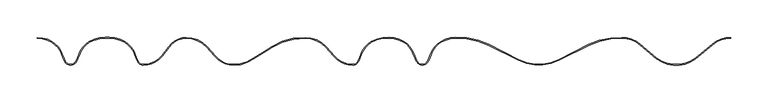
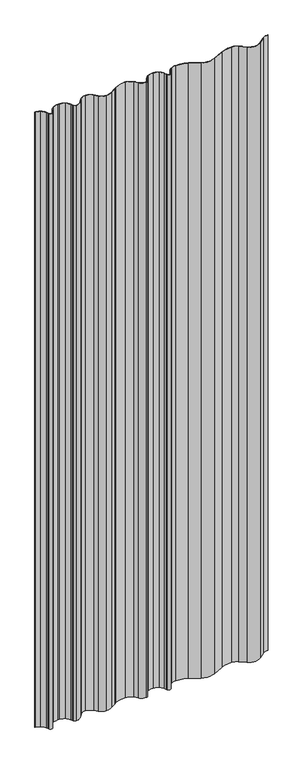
"""IFC4 building model written with IfcOpenShell, lengths in millimetres: plate geometry, Ritmica Couverture 928  : Ritmica Couverture 928 ."""

from ifc_helpers import new_model, si_unit, frame, origin, place, context, project, spatial, polyline, circle_curve, source, transform, mapped, element, save
from ifc_brep_helpers import plane_surface, cylinder_surface, revolved_surface, advanced_brep


def plate_acbe4456(model_context):
    return source(origin(), model_context, "Body", "AdvancedBrep", [
        advanced_brep(
        [(-444.4302446, 30.2811672, 2588.190451), (-431.9836286, 15.5283219, 2588.190451), (-429.1046615, 8.3328787, 2588.190451), (-427.4452979, 4.8677923, 2588.190451), (-411.4637013, 4.8619753, 2588.190451), (-409.8018157, 8.3258528, 2588.190451), (-406.9176114, 15.5191984, 2588.190451), (-394.4602592, 30.2629791, 2588.190451), (-373.3665492, 36.0482488, 2588.190451), (-368.0278773, 36.0482488, 2588.190451), (-346.9383844, 30.2456821, 2588.190451), (-334.4917684, 15.4928368, 2588.190451), (-331.6128013, 8.2973936, 2588.190451), (-329.9534377, 4.8323072, 2588.190451), (-321.9644706, -0.2017286, 2588.190451), (-296.9888452, 11.8248101, 2588.190451), (-287.4386892, 23.807533, 2588.190451), (-264.9602063, 35.7855504, 2588.190451), (-237.4962028, 23.7813753, 2588.190451), (-226.3924296, 11.7911348, 2588.190451), (-201.4255657, -0.253582, 2588.190451), (-174.6923281, 8.160429, 2588.190451), (-157.3593244, 19.2912838, 2588.190451), (-149.9257866, 23.6861251, 2588.190451), (-105.747615, 35.8686526, 2588.190451), (-78.2836116, 23.8644776, 2588.190451), (-67.1798385, 11.8742372, 2588.190451), (-42.2097646, -0.1704801, 2588.190451), (-34.2203451, 4.857739, 2588.190451), (-32.5584593, 8.3216167, 2588.190451), (-29.674242, 15.5149945, 2588.190451), (-17.2169044, 30.2587419, 2588.190451), (6.5461114, 35.9566723, 2588.190451), (26.0848579, 30.4474107, 2588.190451), (38.5314739, 15.6945655, 2588.190451), (41.410441, 8.4991222, 2588.190451), (43.0698047, 5.0340358, 2588.190451), (59.0514012, 5.0282188, 2588.190451), (60.7132869, 8.4920964, 2588.190451), (63.5974912, 15.6854419, 2588.190451), (76.0548434, 30.4292226, 2588.190451), (95.5975949, 35.9242593, 2588.190451), (139.3425473, 26.7427576, 2588.190451), (179.8736188, 6.3460909, 2588.190451), (233.7774888, 6.326471, 2588.190451), (274.3233975, 26.6936273, 2588.190451), (318.0750221, 35.843282, 2588.190451), (341.83917, 27.2314209, 2588.190451), (364.2633956, 8.5356297, 2588.190451), (417.1208498, 8.5163906, 2588.190451), (439.8609935, 27.195853, 2588.190451), (463.6317682, 35.7904123, 2588.190451), (463.6317682, 36.7904124, 2588.190451), (439.2211878, 27.9643897, 2588.190451), (416.5014094, 9.3018814, 2588.190451), (364.8834077, 9.3206693, 2588.190451), (342.479535, 27.9994916, 2588.190451), (318.0931528, 36.8432713, 2588.190451), (273.882295, 27.5911262, 2588.190451), (233.3286151, 7.2200662, 2588.190451), (180.3231429, 7.2393591, 2588.190451), (139.7843031, 27.6399351, 2588.190451), (95.5801931, 36.9242616, 2588.190451), (75.5333761, 31.2824939, 2588.190451), (62.6692321, 16.0573763, 2588.190451), (59.7974032, 8.8948956, 2588.190451), (58.1497994, 5.4607858, 2588.190451), (43.9717211, 5.4659464, 2588.190451), (42.3266177, 8.9012546, 2588.190451), (39.4600035, 16.065824, 2588.190451), (26.6069462, 31.3003021, 2588.190451), (6.5788504, 36.9566468, 2588.190451), (-17.7328786, 31.1153693, 2588.190451), (-30.6024869, 15.8869639, 2588.190451), (-33.4743429, 8.724416, 2588.190451), (-35.1219469, 5.290306, 2588.190451), (-42.2097628, 0.8295199, 2588.190451), (-66.4203948, 12.5259117, 2588.190451), (-77.5499027, 24.5439416, 2588.190451), (-105.7362544, 36.868647, 2588.190451), (-150.4460781, 24.5402159, 2588.190451), (-157.8841427, 20.1426983, 2588.190451), (-175.2477974, 8.9921601, 2588.190451), (-201.4270073, 0.7464186, 2588.190451), (-225.6330756, 12.4429063, 2588.190451), (-236.7624939, 24.4608393, 2588.190451), (-264.9598423, 36.7855503, 2588.190451), (-288.2459339, 24.3991366, 2588.190451), (-297.7708595, 12.4480706, 2588.190451), (-321.9641067, 0.7982713, 2588.190451), (-329.0515212, 5.2642178, 2588.190451), (-330.6966247, 8.699526, 2588.190451), (-333.5638307, 15.8655747, 2588.190451), (-346.4204051, 31.1011119, 2588.190451), (-368.0275134, 37.0463056, 2588.190451), (-373.3663683, 37.0482488, 2588.190451), (-394.9762369, 31.1196045, 2588.190451), (-407.8458704, 15.8911327, 2588.190451), (-410.7176994, 8.7286521, 2588.190451), (-412.3653031, 5.2945423, 2588.190451), (-426.5433815, 5.2997028, 2588.190451), (-428.1884849, 8.7350111, 2588.190451), (-431.0550991, 15.8995804, 2588.190451), (-443.9081563, 31.1340586, 2588.190451), (-463.9686268, 36.7904286, 2588.190451), (-463.9686268, 35.7904286, 2588.190451), (-444.4302446, 30.2811672, 0.0), (-463.9686268, 35.7904286, 0.0), (-463.9686268, 36.7904286, 0.0), (-443.9081563, 31.1340586, 0.0), (-431.0550991, 15.8995804, 0.0), (-428.1884849, 8.7350111, 0.0), (-426.5433815, 5.2997028, 0.0), (-412.3653031, 5.2945423, 0.0), (-410.7176994, 8.7286521, 0.0), (-407.8458704, 15.8911327, 0.0), (-394.9762369, 31.1196045, 0.0), (-373.3663683, 37.0482488, 0.0), (-368.0278773, 37.0482488, 0.0), (-346.4204051, 31.1011119, 0.0), (-333.5638307, 15.8655747, 0.0), (-330.6966247, 8.699526, 0.0), (-329.0515212, 5.2642178, 0.0), (-321.9641067, 0.7982713, 0.0), (-297.7708595, 12.4480706, 0.0), (-288.2459339, 24.3991366, 0.0), (-264.9598423, 36.7855503, 0.0), (-236.7624939, 24.4608393, 0.0), (-225.6330756, 12.4429063, 0.0), (-201.4270073, 0.7464186, 0.0), (-175.2477974, 8.9921601, 0.0), (-157.8841427, 20.1426983, 0.0), (-150.4460781, 24.5402159, 0.0), (-105.7362544, 36.868647, 0.0), (-77.5499027, 24.5439416, 0.0), (-66.4203948, 12.5259117, 0.0), (-42.2097628, 0.8295199, 0.0), (-35.1219469, 5.290306, 0.0), (-33.4743429, 8.724416, 0.0), (-30.6024869, 15.8869639, 0.0), (-17.7328786, 31.1153693, 0.0), (6.5788504, 36.9566468, 0.0), (26.6069462, 31.3003021, 0.0), (39.4600035, 16.065824, 0.0), (42.3266177, 8.9012546, 0.0), (43.9717211, 5.4659464, 0.0), (58.1497994, 5.4607858, 0.0), (59.7974032, 8.8948956, 0.0), (62.6692321, 16.0573763, 0.0), (75.5333761, 31.2824939, 0.0), (95.5801931, 36.9242616, 0.0), (139.7843031, 27.6399351, 0.0), (180.3231429, 7.2393591, 0.0), (233.3286151, 7.2200662, 0.0), (273.882295, 27.5911262, 0.0), (318.0931528, 36.8432713, 0.0), (342.479535, 27.9994916, 0.0), (364.8834077, 9.3206693, 0.0), (416.5014094, 9.3018814, 0.0), (439.2211878, 27.9643897, 0.0), (463.6317682, 36.7904124, 0.0), (463.6317682, 35.7904123, 0.0), (439.8609935, 27.195853, 0.0), (417.1208498, 8.5163906, 0.0), (364.2633956, 8.5356297, 0.0), (341.83917, 27.2314209, 0.0), (318.0750221, 35.843282, 0.0), (274.3233975, 26.6936273, 0.0), (233.7774888, 6.326471, 0.0), (179.8736188, 6.3460909, 0.0), (139.3425473, 26.7427576, 0.0), (95.5975949, 35.9242593, 0.0), (76.0548434, 30.4292226, 0.0), (63.5974912, 15.6854419, 0.0), (60.7132869, 8.4920964, 0.0), (59.0514012, 5.0282188, 0.0), (43.0698047, 5.0340358, 0.0), (41.410441, 8.4991222, 0.0), (38.5314739, 15.6945655, 0.0), (26.0848579, 30.4474107, 0.0), (6.5461114, 35.9566723, 0.0), (-17.2169044, 30.2587419, 0.0), (-29.674242, 15.5149945, 0.0), (-32.5584593, 8.3216167, 0.0), (-34.2203451, 4.857739, 0.0), (-42.2097646, -0.1704801, 0.0), (-67.1798385, 11.8742372, 0.0), (-78.2836116, 23.8644776, 0.0), (-105.747615, 35.8686526, 0.0), (-149.9257866, 23.6861251, 0.0), (-157.3593244, 19.2912838, 0.0), (-174.6923281, 8.160429, 0.0), (-201.4255657, -0.253582, 0.0), (-226.3924296, 11.7911348, 0.0), (-237.4962028, 23.7813753, 0.0), (-264.9602063, 35.7855504, 0.0), (-287.4386892, 23.807533, 0.0), (-296.9888452, 11.8248101, 0.0), (-321.9644706, -0.2017286, 0.0), (-329.9534377, 4.8323072, 0.0), (-331.6128013, 8.2973936, 0.0), (-334.4917684, 15.4928368, 0.0), (-346.9383844, 30.2456821, 0.0), (-368.0278773, 36.0463056, 0.0), (-373.3665492, 36.0482488, 0.0), (-394.4602592, 30.2629791, 0.0), (-406.9176114, 15.5191984, 0.0), (-409.8018157, 8.3258528, 0.0), (-411.4637013, 4.8619753, 0.0), (-427.4452979, 4.8677923, 0.0), (-429.1046615, 8.3328787, 0.0), (-431.9836286, 15.5283219, 0.0)],
        [
            (0, 1, circle_curve(frame((-460.4148551, 4.1684649, 2588.190451), z_axis=(0.0, 0.0, -1.0), x_axis=(-1.0, 0.0, 0.0)), 30.6166783)),
            (1, 2),
            (2, 3),
            (3, 4, circle_curve(frame((-419.4531055, 8.6951004, 2588.190451), z_axis=(0.0, 0.0, 1.0), x_axis=(-1.0, 0.0, 0.0)), 8.8613445)),
            (4, 5),
            (5, 6),
            (6, 7, circle_curve(frame((-378.4946619, 4.1386476, 2588.190451), z_axis=(0.0, 0.0, -1.0), x_axis=(-1.0, 0.0, 0.0)), 30.6166783)),
            (7, 8, circle_curve(frame((-373.381579, -5.2445433, 2588.190451), z_axis=(0.0, 0.0, -1.0), x_axis=(-1.0, 0.0, 0.0)), 41.2927949)),
            (8, 9),
            (9, 10, circle_curve(frame((-368.0429071, -5.2464865, 2588.190451), z_axis=(0.0, 0.0, -1.0), x_axis=(-1.0, 0.0, 0.0)), 41.2927949)),
            (10, 11, circle_curve(frame((-363.1637949, 3.9298228, 2588.190451), z_axis=(0.0, 0.0, -1.0), x_axis=(-1.0, 0.0, 0.0)), 30.9158276)),
            (11, 12),
            (12, 13),
            (13, 14, circle_curve(frame((-321.9612453, 8.6596153, 2588.190451), z_axis=(0.0, 0.0, 1.0), x_axis=(-1.0, 0.0, 0.0)), 8.8613445)),
            (14, 15, circle_curve(frame((-321.9528514, 31.7209684, 2588.190451), z_axis=(0.0, 0.0, 1.0), x_axis=(-1.0, 0.0, 0.0)), 31.9226992)),
            (15, 16),
            (16, 17, circle_curve(frame((-264.9700565, 8.722964, 2588.190451), z_axis=(0.0, 0.0, -1.0), x_axis=(-1.0, 0.0, 0.0)), 27.0625882)),
            (17, 18, circle_curve(frame((-264.9738374, -1.6647716, 2588.190451), z_axis=(0.0, 0.0, -1.0), x_axis=(-1.0, 0.0, 0.0)), 37.4503244)),
            (18, 19),
            (19, 20, circle_curve(frame((-201.4139464, 31.669115, 2588.190451), z_axis=(0.0, 0.0, 1.0), x_axis=(-1.0, 0.0, 0.0)), 31.9226992)),
            (20, 21, circle_curve(frame((-201.5791622, 46.9102404, 2588.190451), z_axis=(0.0, 0.0, 1.0), x_axis=(-1.0, 0.0, 0.0)), 47.1640725)),
            (21, 22),
            (22, 23),
            (23, 24, circle_curve(frame((-107.5247522, -43.880951, 2588.190451), z_axis=(0.0, 0.0, -1.0), x_axis=(-1.0, 0.0, 0.0)), 79.769402)),
            (24, 25, circle_curve(frame((-105.7612462, -1.5816693, 2588.190451), z_axis=(0.0, 0.0, -1.0), x_axis=(-1.0, 0.0, 0.0)), 37.4503244)),
            (25, 26),
            (26, 27, circle_curve(frame((-42.2097086, 31.7349015, 2588.190451), z_axis=(0.0, 0.0, 1.0), x_axis=(-1.0, 0.0, 0.0)), 31.9053816)),
            (27, 28, circle_curve(frame((-42.209749, 8.6908643, 2588.190451), z_axis=(0.0, 0.0, 1.0), x_axis=(-1.0, 0.0, 0.0)), 8.8613444)),
            (28, 29),
            (29, 30),
            (30, 31, circle_curve(frame((-1.2513055, 4.1344114, 2588.190451), z_axis=(0.0, 0.0, -1.0), x_axis=(-1.0, 0.0, 0.0)), 30.6166783)),
            (31, 32, circle_curve(frame((3.8617775, -5.2487796, 2588.190451), z_axis=(0.0, 0.0, -1.0), x_axis=(-1.0, 0.0, 0.0)), 41.2927948)),
            (32, 33, circle_curve(frame((6.5324806, -1.4936497, 2588.190451), z_axis=(0.0, 0.0, -1.0), x_axis=(-1.0, 0.0, 0.0)), 37.4503244)),
            (33, 34, circle_curve(frame((10.1002475, 4.3347085, 2588.190451), z_axis=(0.0, 0.0, -1.0), x_axis=(-1.0, 0.0, 0.0)), 30.6166783)),
            (34, 35),
            (35, 36),
            (36, 37, circle_curve(frame((51.0619971, 8.861344, 2588.190451), z_axis=(0.0, 0.0, 1.0), x_axis=(-1.0, 0.0, 0.0)), 8.8613445)),
            (37, 38),
            (38, 39),
            (39, 40, circle_curve(frame((92.0204406, 4.3048912, 2588.190451), z_axis=(0.0, 0.0, -1.0), x_axis=(-1.0, 0.0, 0.0)), 30.6166783)),
            (40, 41, circle_curve(frame((95.5839638, -1.5260626, 2588.190451), z_axis=(0.0, 0.0, -1.0), x_axis=(-1.0, 0.0, 0.0)), 37.4503244)),
            (41, 42, circle_curve(frame((98.8645428, -57.3118982, 2588.190451), z_axis=(0.0, 0.0, -1.0), x_axis=(-1.0, 0.0, 0.0)), 93.293376)),
            (42, 43),
            (43, 44, circle_curve(frame((206.8450653, 59.9421829, 2588.190451), z_axis=(0.0, 0.0, 1.0), x_axis=(-1.0, 0.0, 0.0)), 60.0)),
            (44, 45),
            (45, 46, circle_curve(frame((314.7402029, -57.3904726, 2588.190451), z_axis=(0.0, 0.0, -1.0), x_axis=(-1.0, 0.0, 0.0)), 93.293376)),
            (46, 47, circle_curve(frame((318.061507, -1.2881358, 2588.190451), z_axis=(0.0, 0.0, -1.0), x_axis=(-1.0, 0.0, 0.0)), 37.1314203)),
            (47, 48),
            (48, 49, circle_curve(frame((390.7049909, 43.8801828, 2588.190451), z_axis=(0.0, 0.0, 1.0), x_axis=(-1.0, 0.0, 0.0)), 44.1406321)),
            (49, 50),
            (50, 51, circle_curve(frame((463.6178891, -1.3410054, 2588.190451), z_axis=(0.0, 0.0, -1.0), x_axis=(-1.0, 0.0, 0.0)), 37.1314203)),
            (51, 52),
            (52, 53, circle_curve(frame((463.6178891, -1.3410054, 2588.190451), z_axis=(0.0, 0.0, 1.0), x_axis=(-1.0, 0.0, 0.0)), 38.1314203)),
            (53, 54),
            (54, 55, circle_curve(frame((390.7049909, 43.8801828, 2588.190451), z_axis=(0.0, 0.0, -1.0), x_axis=(-1.0, 0.0, 0.0)), 43.1406321)),
            (55, 56),
            (56, 57, circle_curve(frame((318.061507, -1.2881358, 2588.190451), z_axis=(0.0, 0.0, 1.0), x_axis=(-1.0, 0.0, 0.0)), 38.1314203)),
            (57, 58, circle_curve(frame((314.7402029, -57.3904726, 2588.190451), z_axis=(0.0, 0.0, 1.0), x_axis=(-1.0, 0.0, 0.0)), 94.293376)),
            (58, 59),
            (59, 60, circle_curve(frame((206.8450653, 59.9421829, 2588.190451), z_axis=(0.0, 0.0, -1.0), x_axis=(-1.0, 0.0, 0.0)), 59.0)),
            (60, 61),
            (61, 62, circle_curve(frame((98.8645428, -57.3118982, 2588.190451), z_axis=(0.0, 0.0, 1.0), x_axis=(-1.0, 0.0, 0.0)), 94.293376)),
            (62, 63, circle_curve(frame((95.5839638, -1.5260626, 2588.190451), z_axis=(0.0, 0.0, 1.0), x_axis=(-1.0, 0.0, 0.0)), 38.4503244)),
            (63, 64, circle_curve(frame((92.0204406, 4.3048912, 2588.190451), z_axis=(0.0, 0.0, 1.0), x_axis=(-1.0, 0.0, 0.0)), 31.6166783)),
            (64, 65),
            (65, 66),
            (66, 67, circle_curve(frame((51.0619971, 8.861344, 2588.190451), z_axis=(0.0, 0.0, -1.0), x_axis=(-1.0, 0.0, 0.0)), 7.8613445)),
            (67, 68),
            (68, 69),
            (69, 70, circle_curve(frame((10.1002475, 4.3347085, 2588.190451), z_axis=(0.0, 0.0, 1.0), x_axis=(-1.0, 0.0, 0.0)), 31.6166783)),
            (70, 71, circle_curve(frame((6.5324806, -1.4936497, 2588.190451), z_axis=(0.0, 0.0, 1.0), x_axis=(-1.0, 0.0, 0.0)), 38.4503244)),
            (71, 72, circle_curve(frame((3.8617775, -5.2487796, 2588.190451), z_axis=(0.0, 0.0, 1.0), x_axis=(-1.0, 0.0, 0.0)), 42.2927948)),
            (72, 73, circle_curve(frame((-1.2513055, 4.1344114, 2588.190451), z_axis=(0.0, 0.0, 1.0), x_axis=(-1.0, 0.0, 0.0)), 31.6166782)),
            (73, 74),
            (74, 75),
            (75, 76, circle_curve(frame((-42.209749, 8.6908643, 2588.190451), z_axis=(0.0, 0.0, -1.0), x_axis=(-1.0, 0.0, 0.0)), 7.8613444)),
            (76, 77, circle_curve(frame((-42.2097086, 31.7349015, 2588.190451), z_axis=(0.0, 0.0, -1.0), x_axis=(-1.0, 0.0, 0.0)), 30.9053816)),
            (77, 78),
            (78, 79, circle_curve(frame((-105.7612462, -1.5816693, 2588.190451), z_axis=(0.0, 0.0, 1.0), x_axis=(-1.0, 0.0, 0.0)), 38.4503244)),
            (79, 80, circle_curve(frame((-107.5247522, -43.880951, 2588.190451), z_axis=(0.0, 0.0, 1.0), x_axis=(-1.0, 0.0, 0.0)), 80.769402)),
            (80, 81),
            (81, 82),
            (82, 83, circle_curve(frame((-201.5791622, 46.9102404, 2588.190451), z_axis=(0.0, 0.0, -1.0), x_axis=(-1.0, 0.0, 0.0)), 46.1640725)),
            (83, 84, circle_curve(frame((-201.4139464, 31.669115, 2588.190451), z_axis=(0.0, 0.0, -1.0), x_axis=(-1.0, 0.0, 0.0)), 30.9226992)),
            (84, 85),
            (85, 86, circle_curve(frame((-264.9738374, -1.6647716, 2588.190451), z_axis=(0.0, 0.0, 1.0), x_axis=(-1.0, 0.0, 0.0)), 38.4503244)),
            (86, 87, circle_curve(frame((-264.9700565, 8.722964, 2588.190451), z_axis=(0.0, 0.0, 1.0), x_axis=(-1.0, 0.0, 0.0)), 28.0625882)),
            (87, 88),
            (88, 89, circle_curve(frame((-321.9528514, 31.7209684, 2588.190451), z_axis=(0.0, 0.0, -1.0), x_axis=(-1.0, 0.0, 0.0)), 30.9226992)),
            (89, 90, circle_curve(frame((-321.9612453, 8.6596153, 2588.190451), z_axis=(0.0, 0.0, -1.0), x_axis=(-1.0, 0.0, 0.0)), 7.8613445)),
            (90, 91),
            (91, 92),
            (92, 93, circle_curve(frame((-363.1637949, 3.9298228, 2588.190451), z_axis=(0.0, 0.0, 1.0), x_axis=(-1.0, 0.0, 0.0)), 31.9158276)),
            (93, 94, circle_curve(frame((-368.0429071, -5.2464865, 2588.190451), z_axis=(0.0, 0.0, 1.0), x_axis=(-1.0, 0.0, 0.0)), 42.2927949)),
            (94, 95),
            (95, 96, circle_curve(frame((-373.381579, -5.2445433, 2588.190451), z_axis=(0.0, 0.0, 1.0), x_axis=(-1.0, 0.0, 0.0)), 42.2927949)),
            (96, 97, circle_curve(frame((-378.4946619, 4.1386476, 2588.190451), z_axis=(0.0, 0.0, 1.0), x_axis=(-1.0, 0.0, 0.0)), 31.6166783)),
            (97, 98),
            (98, 99),
            (99, 100, circle_curve(frame((-419.4531055, 8.6951004, 2588.190451), z_axis=(0.0, 0.0, -1.0), x_axis=(-1.0, 0.0, 0.0)), 7.8613445)),
            (100, 101),
            (101, 102),
            (102, 103, circle_curve(frame((-460.4148551, 4.1684649, 2588.190451), z_axis=(0.0, 0.0, 1.0), x_axis=(-1.0, 0.0, 0.0)), 31.6166783)),
            (103, 104, circle_curve(frame((-463.982622, -1.6598932, 2588.190451), z_axis=(0.0, 0.0, 1.0), x_axis=(-1.0, 0.0, 0.0)), 38.4503244)),
            (104, 105),
            (105, 0, circle_curve(frame((-463.982622, -1.6598932, 2588.190451), z_axis=(0.0, 0.0, -1.0), x_axis=(-1.0, 0.0, 0.0)), 37.4503244)),
            (106, 107, circle_curve(frame((-463.982622, -1.6598932, 0.0), z_axis=(0.0, 0.0, 1.0), x_axis=(-1.0, 0.0, 0.0)), 37.4503244)),
            (107, 108),
            (108, 109, circle_curve(frame((-463.982622, -1.6598932, 0.0), z_axis=(0.0, 0.0, -1.0), x_axis=(-1.0, 0.0, 0.0)), 38.4503244)),
            (109, 110, circle_curve(frame((-460.4148551, 4.1684649, 0.0), z_axis=(0.0, 0.0, -1.0), x_axis=(-1.0, 0.0, 0.0)), 31.6166783)),
            (110, 111),
            (111, 112),
            (112, 113, circle_curve(frame((-419.4531055, 8.6951004, 0.0), z_axis=(0.0, 0.0, 1.0), x_axis=(-1.0, 0.0, 0.0)), 7.8613445)),
            (113, 114),
            (114, 115),
            (115, 116, circle_curve(frame((-378.4946619, 4.1386476, 0.0), z_axis=(0.0, 0.0, -1.0), x_axis=(-1.0, 0.0, 0.0)), 31.6166783)),
            (116, 117, circle_curve(frame((-373.381579, -5.2445433, 0.0), z_axis=(0.0, 0.0, -1.0), x_axis=(-1.0, 0.0, 0.0)), 42.2927949)),
            (117, 118),
            (118, 119, circle_curve(frame((-368.0429071, -5.2464865, 0.0), z_axis=(0.0, 0.0, -1.0), x_axis=(-1.0, 0.0, 0.0)), 42.2927949)),
            (119, 120, circle_curve(frame((-363.1637949, 3.9298228, 0.0), z_axis=(0.0, 0.0, -1.0), x_axis=(-1.0, 0.0, 0.0)), 31.9158276)),
            (120, 121),
            (121, 122),
            (122, 123, circle_curve(frame((-321.9612453, 8.6596153, 0.0), z_axis=(0.0, 0.0, 1.0), x_axis=(-1.0, 0.0, 0.0)), 7.8613445)),
            (123, 124, circle_curve(frame((-321.9528514, 31.7209684, 0.0), z_axis=(0.0, 0.0, 1.0), x_axis=(-1.0, 0.0, 0.0)), 30.9226992)),
            (124, 125),
            (125, 126, circle_curve(frame((-264.9700565, 8.722964, 0.0), z_axis=(0.0, 0.0, -1.0), x_axis=(-1.0, 0.0, 0.0)), 28.0625882)),
            (126, 127, circle_curve(frame((-264.9738374, -1.6647716, 0.0), z_axis=(0.0, 0.0, -1.0), x_axis=(-1.0, 0.0, 0.0)), 38.4503244)),
            (127, 128),
            (128, 129, circle_curve(frame((-201.4139464, 31.669115, 0.0), z_axis=(0.0, 0.0, 1.0), x_axis=(-1.0, 0.0, 0.0)), 30.9226992)),
            (129, 130, circle_curve(frame((-201.5791622, 46.9102404, 0.0), z_axis=(0.0, 0.0, 1.0), x_axis=(-1.0, 0.0, 0.0)), 46.1640725)),
            (130, 131),
            (131, 132),
            (132, 133, circle_curve(frame((-107.5247522, -43.880951, 0.0), z_axis=(0.0, 0.0, -1.0), x_axis=(-1.0, 0.0, 0.0)), 80.769402)),
            (133, 134, circle_curve(frame((-105.7612462, -1.5816693, 0.0), z_axis=(0.0, 0.0, -1.0), x_axis=(-1.0, 0.0, 0.0)), 38.4503244)),
            (134, 135),
            (135, 136, circle_curve(frame((-42.2097086, 31.7349015, 0.0), z_axis=(0.0, 0.0, 1.0), x_axis=(-1.0, 0.0, 0.0)), 30.9053816)),
            (136, 137, circle_curve(frame((-42.209749, 8.6908643, 0.0), z_axis=(0.0, 0.0, 1.0), x_axis=(-1.0, 0.0, 0.0)), 7.8613444)),
            (137, 138),
            (138, 139),
            (139, 140, circle_curve(frame((-1.2513055, 4.1344114, 0.0), z_axis=(0.0, 0.0, -1.0), x_axis=(-1.0, 0.0, 0.0)), 31.6166782)),
            (140, 141, circle_curve(frame((3.8617775, -5.2487796, 0.0), z_axis=(0.0, 0.0, -1.0), x_axis=(-1.0, 0.0, 0.0)), 42.2927948)),
            (141, 142, circle_curve(frame((6.5324806, -1.4936497, 0.0), z_axis=(0.0, 0.0, -1.0), x_axis=(-1.0, 0.0, 0.0)), 38.4503244)),
            (142, 143, circle_curve(frame((10.1002475, 4.3347085, 0.0), z_axis=(0.0, 0.0, -1.0), x_axis=(-1.0, 0.0, 0.0)), 31.6166783)),
            (143, 144),
            (144, 145),
            (145, 146, circle_curve(frame((51.0619971, 8.861344, 0.0), z_axis=(0.0, 0.0, 1.0), x_axis=(-1.0, 0.0, 0.0)), 7.8613445)),
            (146, 147),
            (147, 148),
            (148, 149, circle_curve(frame((92.0204406, 4.3048912, 0.0), z_axis=(0.0, 0.0, -1.0), x_axis=(-1.0, 0.0, 0.0)), 31.6166783)),
            (149, 150, circle_curve(frame((95.5839638, -1.5260626, 0.0), z_axis=(0.0, 0.0, -1.0), x_axis=(-1.0, 0.0, 0.0)), 38.4503244)),
            (150, 151, circle_curve(frame((98.8645428, -57.3118982, 0.0), z_axis=(0.0, 0.0, -1.0), x_axis=(-1.0, 0.0, 0.0)), 94.293376)),
            (151, 152),
            (152, 153, circle_curve(frame((206.8450653, 59.9421829, 0.0), z_axis=(0.0, 0.0, 1.0), x_axis=(-1.0, 0.0, 0.0)), 59.0)),
            (153, 154),
            (154, 155, circle_curve(frame((314.7402029, -57.3904726, 0.0), z_axis=(0.0, 0.0, -1.0), x_axis=(-1.0, 0.0, 0.0)), 94.293376)),
            (155, 156, circle_curve(frame((318.061507, -1.2881358, 0.0), z_axis=(0.0, 0.0, -1.0), x_axis=(-1.0, 0.0, 0.0)), 38.1314203)),
            (156, 157),
            (157, 158, circle_curve(frame((390.7049909, 43.8801828, 0.0), z_axis=(0.0, 0.0, 1.0), x_axis=(-1.0, 0.0, 0.0)), 43.1406321)),
            (158, 159),
            (159, 160, circle_curve(frame((463.6178891, -1.3410054, 0.0), z_axis=(0.0, 0.0, -1.0), x_axis=(-1.0, 0.0, 0.0)), 38.1314203)),
            (160, 161),
            (161, 162, circle_curve(frame((463.6178891, -1.3410054, 0.0), z_axis=(0.0, 0.0, 1.0), x_axis=(-1.0, 0.0, 0.0)), 37.1314203)),
            (162, 163),
            (163, 164, circle_curve(frame((390.7049909, 43.8801828, 0.0), z_axis=(0.0, 0.0, -1.0), x_axis=(-1.0, 0.0, 0.0)), 44.1406321)),
            (164, 165),
            (165, 166, circle_curve(frame((318.061507, -1.2881358, 0.0), z_axis=(0.0, 0.0, 1.0), x_axis=(-1.0, 0.0, 0.0)), 37.1314203)),
            (166, 167, circle_curve(frame((314.7402029, -57.3904726, 0.0), z_axis=(0.0, 0.0, 1.0), x_axis=(-1.0, 0.0, 0.0)), 93.293376)),
            (167, 168),
            (168, 169, circle_curve(frame((206.8450653, 59.9421829, 0.0), z_axis=(0.0, 0.0, -1.0), x_axis=(-1.0, 0.0, 0.0)), 60.0)),
            (169, 170),
            (170, 171, circle_curve(frame((98.8645428, -57.3118982, 0.0), z_axis=(0.0, 0.0, 1.0), x_axis=(-1.0, 0.0, 0.0)), 93.293376)),
            (171, 172, circle_curve(frame((95.5839638, -1.5260626, 0.0), z_axis=(0.0, 0.0, 1.0), x_axis=(-1.0, 0.0, 0.0)), 37.4503244)),
            (172, 173, circle_curve(frame((92.0204406, 4.3048912, 0.0), z_axis=(0.0, 0.0, 1.0), x_axis=(-1.0, 0.0, 0.0)), 30.6166783)),
            (173, 174),
            (174, 175),
            (175, 176, circle_curve(frame((51.0619971, 8.861344, 0.0), z_axis=(0.0, 0.0, -1.0), x_axis=(-1.0, 0.0, 0.0)), 8.8613445)),
            (176, 177),
            (177, 178),
            (178, 179, circle_curve(frame((10.1002475, 4.3347085, 0.0), z_axis=(0.0, 0.0, 1.0), x_axis=(-1.0, 0.0, 0.0)), 30.6166783)),
            (179, 180, circle_curve(frame((6.5324806, -1.4936497, 0.0), z_axis=(0.0, 0.0, 1.0), x_axis=(-1.0, 0.0, 0.0)), 37.4503244)),
            (180, 181, circle_curve(frame((3.8617775, -5.2487796, 0.0), z_axis=(0.0, 0.0, 1.0), x_axis=(-1.0, 0.0, 0.0)), 41.2927948)),
            (181, 182, circle_curve(frame((-1.2513055, 4.1344114, 0.0), z_axis=(0.0, 0.0, 1.0), x_axis=(-1.0, 0.0, 0.0)), 30.6166783)),
            (182, 183),
            (183, 184),
            (184, 185, circle_curve(frame((-42.209749, 8.6908643, 0.0), z_axis=(0.0, 0.0, -1.0), x_axis=(-1.0, 0.0, 0.0)), 8.8613444)),
            (185, 186, circle_curve(frame((-42.2097086, 31.7349015, 0.0), z_axis=(0.0, 0.0, -1.0), x_axis=(-1.0, 0.0, 0.0)), 31.9053816)),
            (186, 187),
            (187, 188, circle_curve(frame((-105.7612462, -1.5816693, 0.0), z_axis=(0.0, 0.0, 1.0), x_axis=(-1.0, 0.0, 0.0)), 37.4503244)),
            (188, 189, circle_curve(frame((-107.5247522, -43.880951, 0.0), z_axis=(0.0, 0.0, 1.0), x_axis=(-1.0, 0.0, 0.0)), 79.769402)),
            (189, 190),
            (190, 191),
            (191, 192, circle_curve(frame((-201.5791622, 46.9102404, 0.0), z_axis=(0.0, 0.0, -1.0), x_axis=(-1.0, 0.0, 0.0)), 47.1640725)),
            (192, 193, circle_curve(frame((-201.4139464, 31.669115, 0.0), z_axis=(0.0, 0.0, -1.0), x_axis=(-1.0, 0.0, 0.0)), 31.9226992)),
            (193, 194),
            (194, 195, circle_curve(frame((-264.9738374, -1.6647716, 0.0), z_axis=(0.0, 0.0, 1.0), x_axis=(-1.0, 0.0, 0.0)), 37.4503244)),
            (195, 196, circle_curve(frame((-264.9700565, 8.722964, 0.0), z_axis=(0.0, 0.0, 1.0), x_axis=(-1.0, 0.0, 0.0)), 27.0625882)),
            (196, 197),
            (197, 198, circle_curve(frame((-321.9528514, 31.7209684, 0.0), z_axis=(0.0, 0.0, -1.0), x_axis=(-1.0, 0.0, 0.0)), 31.9226992)),
            (198, 199, circle_curve(frame((-321.9612453, 8.6596153, 0.0), z_axis=(0.0, 0.0, -1.0), x_axis=(-1.0, 0.0, 0.0)), 8.8613445)),
            (199, 200),
            (200, 201),
            (201, 202, circle_curve(frame((-363.1637949, 3.9298228, 0.0), z_axis=(0.0, 0.0, 1.0), x_axis=(-1.0, 0.0, 0.0)), 30.9158276)),
            (202, 203, circle_curve(frame((-368.0429071, -5.2464865, 0.0), z_axis=(0.0, 0.0, 1.0), x_axis=(-1.0, 0.0, 0.0)), 41.2927949)),
            (203, 204),
            (204, 205, circle_curve(frame((-373.381579, -5.2445433, 0.0), z_axis=(0.0, 0.0, 1.0), x_axis=(-1.0, 0.0, 0.0)), 41.2927949)),
            (205, 206, circle_curve(frame((-378.4946619, 4.1386476, 0.0), z_axis=(0.0, 0.0, 1.0), x_axis=(-1.0, 0.0, 0.0)), 30.6166783)),
            (206, 207),
            (207, 208),
            (208, 209, circle_curve(frame((-419.4531055, 8.6951004, 0.0), z_axis=(0.0, 0.0, -1.0), x_axis=(-1.0, 0.0, 0.0)), 8.8613445)),
            (209, 210),
            (210, 211),
            (211, 106, circle_curve(frame((-460.4148551, 4.1684649, 0.0), z_axis=(0.0, 0.0, 1.0), x_axis=(-1.0, 0.0, 0.0)), 30.6166783)),
            (0, 106),
            (211, 1),
            (210, 2),
            (209, 3),
            (208, 4),
            (207, 5),
            (206, 6),
            (205, 7),
            (204, 8),
            (203, 9),
            (202, 10),
            (201, 11),
            (200, 12),
            (199, 13),
            (198, 14),
            (197, 15),
            (196, 16),
            (195, 17),
            (194, 18),
            (193, 19),
            (192, 20),
            (191, 21),
            (190, 22),
            (189, 23),
            (188, 24),
            (187, 25),
            (186, 26),
            (185, 27),
            (184, 28),
            (183, 29),
            (182, 30),
            (181, 31),
            (180, 32),
            (179, 33),
            (178, 34),
            (177, 35),
            (176, 36),
            (175, 37),
            (174, 38),
            (173, 39),
            (172, 40),
            (171, 41),
            (170, 42),
            (169, 43),
            (168, 44),
            (167, 45),
            (166, 46),
            (165, 47),
            (164, 48),
            (163, 49),
            (162, 50),
            (161, 51),
            (160, 52),
            (159, 53),
            (158, 54),
            (157, 55),
            (156, 56),
            (155, 57),
            (154, 58),
            (153, 59),
            (152, 60),
            (151, 61),
            (150, 62),
            (149, 63),
            (148, 64),
            (147, 65),
            (146, 66),
            (145, 67),
            (144, 68),
            (143, 69),
            (142, 70),
            (141, 71),
            (140, 72),
            (139, 73),
            (138, 74),
            (137, 75),
            (136, 76),
            (135, 77),
            (134, 78),
            (133, 79),
            (132, 80),
            (131, 81),
            (130, 82),
            (129, 83),
            (128, 84),
            (127, 85),
            (126, 86),
            (125, 87),
            (124, 88),
            (123, 89),
            (122, 90),
            (121, 91),
            (120, 92),
            (119, 93),
            (118, 94),
            (117, 95),
            (116, 96),
            (115, 97),
            (114, 98),
            (113, 99),
            (112, 100),
            (111, 101),
            (110, 102),
            (109, 103),
            (108, 104),
            (107, 105),
        ],
        [
            plane_surface(frame((-491.0315334, 4.1684649, 2588.190451), z_axis=(0.0, 0.0, 1.0), x_axis=(0.0, 1.0, 0.0))),
            plane_surface(frame((-491.0315334, 4.1684649, 0.0), z_axis=(0.0, 0.0, -1.0), x_axis=(0.0, -1.0, 0.0))),
            revolved_surface(polyline([(-491.0315334, 4.1684649, 0.0), (-491.0315334, 4.1684649, 2588.190451)]), (-460.4148551, 4.1684649, 0.0), (0.0, 0.0, -1.0)),
            plane_surface(frame((-431.9836286, 15.5283219, 2588.190451), z_axis=(-0.9284415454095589, -0.3714785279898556, 0.0), x_axis=(0.0, 0.0, -1.0))),
            plane_surface(frame((-429.1046615, 8.3328787, 2588.190451), z_axis=(-0.9019164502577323, -0.43191054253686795, 0.0), x_axis=(0.0, 0.0, -1.0))),
            cylinder_surface(frame((-419.4531055, 8.6951004, 0.0), z_axis=(0.0, 0.0, 1.0), x_axis=(-1.0, 0.0, 0.0)), 8.8613445),
            plane_surface(frame((-411.4637013, 4.8619753, 2588.190451), z_axis=(0.9016017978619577, -0.43256698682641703, 0.0), x_axis=(0.0, 0.0, -1.0))),
            plane_surface(frame((-409.8018157, 8.3258528, 2588.190451), z_axis=(0.9281708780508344, -0.3721542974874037, 0.0), x_axis=(0.0, 0.0, -1.0))),
            revolved_surface(polyline([(-409.1113402, 4.1386476, 0.0), (-409.1113402, 4.1386476, 2588.190451)]), (-378.4946619, 4.1386476, 0.0), (0.0, 0.0, -1.0)),
            revolved_surface(polyline([(-414.6743739, -5.2445433, 0.0), (-414.6743739, -5.2445433, 2588.190451)]), (-373.381579, -5.2445433, 0.0), (0.0, 0.0, -1.0)),
            plane_surface(frame((-373.3665492, 36.0482488, 2588.190451), z_axis=(0.0, -1.0, 0.0), x_axis=(0.0, 0.0, -1.0))),
            revolved_surface(polyline([(-409.33570199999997, -5.2464865, 0.0), (-409.33570199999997, -5.2464865, 2588.190451)]), (-368.0429071, -5.2464865, 0.0), (0.0, 0.0, -1.0)),
            revolved_surface(polyline([(-394.0796225, 3.9298228, 0.0), (-394.0796225, 3.9298228, 2588.190451)]), (-363.1637949, 3.9298228, 0.0), (0.0, 0.0, -1.0)),
            plane_surface(frame((-334.4917684, 15.4928368, 2588.190451), z_axis=(-0.9284415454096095, -0.37147852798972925, 0.0), x_axis=(0.0, 0.0, -1.0))),
            plane_surface(frame((-331.6128013, 8.2973936, 2588.190451), z_axis=(-0.901916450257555, -0.4319105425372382, 0.0), x_axis=(0.0, 0.0, -1.0))),
            cylinder_surface(frame((-321.9612453, 8.6596153, 0.0), z_axis=(0.0, 0.0, 1.0), x_axis=(-1.0, 0.0, 0.0)), 8.8613445),
            cylinder_surface(frame((-321.9528514, 31.7209684, 0.0), z_axis=(0.0, 0.0, 1.0), x_axis=(-1.0, 0.0, 0.0)), 31.9226992),
            plane_surface(frame((-296.9888452, 11.8248101, 2588.190451), z_axis=(0.7820142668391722, -0.6232605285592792, 0.0), x_axis=(0.0, 0.0, -1.0))),
            revolved_surface(polyline([(-292.0326447, 8.722964, 0.0), (-292.0326447, 8.722964, 2588.190451)]), (-264.9700565, 8.722964, 0.0), (0.0, 0.0, -1.0)),
            revolved_surface(polyline([(-302.4241618, -1.6647716, 0.0), (-302.4241618, -1.6647716, 2588.190451)]), (-264.9738374, -1.6647716, 0.0), (0.0, 0.0, -1.0)),
            plane_surface(frame((-237.4962028, 23.7813753, 2588.190451), z_axis=(-0.7337088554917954, -0.6794639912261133, 0.0), x_axis=(0.0, 0.0, -1.0))),
            cylinder_surface(frame((-201.4139464, 31.669115, 0.0), z_axis=(0.0, 0.0, 1.0), x_axis=(-1.0, 0.0, 0.0)), 31.9226992),
            cylinder_surface(frame((-201.5791622, 46.9102404, 0.0), z_axis=(0.0, 0.0, 1.0), x_axis=(-1.0, 0.0, 0.0)), 47.1640725),
            plane_surface(frame((-174.6923281, 8.160429, 2588.190451), z_axis=(0.5403525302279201, -0.8414387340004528, 0.0), x_axis=(0.0, 0.0, -1.0))),
            plane_surface(frame((-157.3593244, 19.2912838, 2588.190451), z_axis=(0.5089263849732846, -0.8608100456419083, 0.0), x_axis=(0.0, 0.0, -1.0))),
            revolved_surface(polyline([(-187.29415419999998, -43.880951, 0.0), (-187.29415419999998, -43.880951, 2588.190451)]), (-107.5247522, -43.880951, 0.0), (0.0, 0.0, -1.0)),
            revolved_surface(polyline([(-143.21157060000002, -1.5816693, 0.0), (-143.21157060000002, -1.5816693, 2588.190451)]), (-105.7612462, -1.5816693, 0.0), (0.0, 0.0, -1.0)),
            plane_surface(frame((-78.2836116, 23.8644776, 2588.190451), z_axis=(-0.7337088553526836, -0.679463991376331, 0.0), x_axis=(0.0, 0.0, -1.0))),
            cylinder_surface(frame((-42.2097086, 31.7349015, 0.0), z_axis=(0.0, 0.0, 1.0), x_axis=(-1.0, 0.0, 0.0)), 31.9053816),
            cylinder_surface(frame((-42.209749, 8.6908643, 0.0), z_axis=(0.0, 0.0, 1.0), x_axis=(-1.0, 0.0, 0.0)), 8.8613444),
            plane_surface(frame((-34.2203451, 4.857739, 2588.190451), z_axis=(0.9016017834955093, -0.4325670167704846, 0.0), x_axis=(0.0, 0.0, -1.0))),
            plane_surface(frame((-32.5584593, 8.3216167, 2588.190451), z_axis=(0.9281708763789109, -0.37215430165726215, 0.0), x_axis=(0.0, 0.0, -1.0))),
            revolved_surface(polyline([(-31.8679838, 4.1344114, 0.0), (-31.8679838, 4.1344114, 2588.190451)]), (-1.2513055, 4.1344114, 0.0), (0.0, 0.0, -1.0)),
            revolved_surface(polyline([(-37.4310173, -5.2487796, 0.0), (-37.4310173, -5.2487796, 2588.190451)]), (3.8617775, -5.2487796, 0.0), (0.0, 0.0, -1.0)),
            revolved_surface(polyline([(-30.9178438, -1.4936497, 0.0), (-30.9178438, -1.4936497, 2588.190451)]), (6.5324806, -1.4936497, 0.0), (0.0, 0.0, -1.0)),
            revolved_surface(polyline([(-20.516430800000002, 4.3347085, 0.0), (-20.516430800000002, 4.3347085, 2588.190451)]), (10.1002475, 4.3347085, 0.0), (0.0, 0.0, -1.0)),
            plane_surface(frame((38.5314739, 15.6945655, 2588.190451), z_axis=(-0.9284415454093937, -0.3714785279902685, 0.0), x_axis=(0.0, 0.0, -1.0))),
            plane_surface(frame((41.410441, 8.4991222, 2588.190451), z_axis=(-0.9019164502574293, -0.4319105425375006, 0.0), x_axis=(0.0, 0.0, -1.0))),
            cylinder_surface(frame((51.0619971, 8.861344, 0.0), z_axis=(0.0, 0.0, 1.0), x_axis=(-1.0, 0.0, 0.0)), 8.8613445),
            plane_surface(frame((59.0514012, 5.0282188, 2588.190451), z_axis=(0.9016017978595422, -0.4325669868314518, 0.0), x_axis=(0.0, 0.0, -1.0))),
            plane_surface(frame((60.7132869, 8.4920964, 2588.190451), z_axis=(0.9281708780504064, -0.37215429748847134, 0.0), x_axis=(0.0, 0.0, -1.0))),
            revolved_surface(polyline([(61.4037623, 4.3048912, 0.0), (61.4037623, 4.3048912, 2588.190451)]), (92.0204406, 4.3048912, 0.0), (0.0, 0.0, -1.0)),
            revolved_surface(polyline([(58.13363940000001, -1.5260626, 0.0), (58.13363940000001, -1.5260626, 2588.190451)]), (95.5839638, -1.5260626, 0.0), (0.0, 0.0, -1.0)),
            revolved_surface(polyline([(5.5711668, -57.3118982, 0.0), (5.5711668, -57.3118982, 2588.190451)]), (98.8645428, -57.3118982, 0.0), (0.0, 0.0, -1.0)),
            plane_surface(frame((139.3425473, 26.7427576, 2588.190451), z_axis=(-0.4495241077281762, -0.8932681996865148, 0.0), x_axis=(0.0, 0.0, -1.0))),
            cylinder_surface(frame((206.8450653, 59.9421829, 0.0), z_axis=(0.0, 0.0, 1.0), x_axis=(-1.0, 0.0, 0.0)), 60.0),
            plane_surface(frame((233.7774888, 6.326471, 2588.190451), z_axis=(0.4488737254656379, -0.8935951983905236, 0.0), x_axis=(0.0, 0.0, -1.0))),
            revolved_surface(polyline([(221.4468269, -57.3904726, 0.0), (221.4468269, -57.3904726, 2588.190451)]), (314.7402029, -57.3904726, 0.0), (0.0, 0.0, -1.0)),
            revolved_surface(polyline([(280.9300867, -1.2881358, 0.0), (280.9300867, -1.2881358, 2588.190451)]), (318.061507, -1.2881358, 0.0), (0.0, 0.0, -1.0)),
            plane_surface(frame((341.83917, 27.2314209, 2588.190451), z_axis=(-0.6403650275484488, -0.7680707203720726, 0.0), x_axis=(0.0, 0.0, -1.0))),
            cylinder_surface(frame((390.7049909, 43.8801828, 0.0), z_axis=(0.0, 0.0, 1.0), x_axis=(-1.0, 0.0, 0.0)), 44.1406321),
            plane_surface(frame((417.1208498, 8.5163906, 2588.190451), z_axis=(0.6347406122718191, -0.7727252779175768, 0.0), x_axis=(0.0, 0.0, -1.0))),
            revolved_surface(polyline([(426.4864688, -1.3410054, 0.0), (426.4864688, -1.3410054, 2588.190451)]), (463.6178891, -1.3410054, 0.0), (0.0, 0.0, -1.0)),
            plane_surface(frame((463.6317682, 35.7904123, 2588.190451), z_axis=(1.0, 0.0, 0.0), x_axis=(0.0, 0.0, -1.0))),
            cylinder_surface(frame((463.6178891, -1.3410054, 0.0), z_axis=(0.0, 0.0, 1.0), x_axis=(-1.0, 0.0, 0.0)), 38.1314203),
            plane_surface(frame((439.2211878, 27.9643897, 2588.190451), z_axis=(-0.6347360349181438, 0.7727290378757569, 0.0), x_axis=(0.0, 0.0, -1.0))),
            revolved_surface(polyline([(347.5643588, 43.8801828, 0.0), (347.5643588, 43.8801828, 2588.190451)]), (390.7049909, 43.8801828, 0.0), (0.0, 0.0, -1.0)),
            plane_surface(frame((364.8834077, 9.3206693, 2588.190451), z_axis=(0.6403650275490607, 0.7680707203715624, 0.0), x_axis=(0.0, 0.0, -1.0))),
            cylinder_surface(frame((318.061507, -1.2881358, 0.0), z_axis=(0.0, 0.0, 1.0), x_axis=(-1.0, 0.0, 0.0)), 38.1314203),
            cylinder_surface(frame((314.7402029, -57.3904726, 0.0), z_axis=(0.0, 0.0, 1.0), x_axis=(-1.0, 0.0, 0.0)), 94.293376),
            plane_surface(frame((273.882295, 27.5911262, 2588.190451), z_axis=(-0.44887372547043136, 0.8935951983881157, 0.0), x_axis=(0.0, 0.0, -1.0))),
            revolved_surface(polyline([(147.8450653, 59.9421829, 0.0), (147.8450653, 59.9421829, 2588.190451)]), (206.8450653, 59.9421829, 0.0), (0.0, 0.0, -1.0)),
            plane_surface(frame((180.3231429, 7.2393591, 2588.190451), z_axis=(0.4495241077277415, 0.8932681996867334, 0.0), x_axis=(0.0, 0.0, -1.0))),
            cylinder_surface(frame((98.8645428, -57.3118982, 0.0), z_axis=(0.0, 0.0, 1.0), x_axis=(-1.0, 0.0, 0.0)), 94.293376),
            cylinder_surface(frame((95.5839638, -1.5260626, 0.0), z_axis=(0.0, 0.0, 1.0), x_axis=(-1.0, 0.0, 0.0)), 38.4503244),
            cylinder_surface(frame((92.0204406, 4.3048912, 0.0), z_axis=(0.0, 0.0, 1.0), x_axis=(-1.0, 0.0, 0.0)), 31.6166783),
            plane_surface(frame((62.6692321, 16.0573763, 2588.190451), z_axis=(-0.9281708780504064, 0.37215429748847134, 0.0), x_axis=(0.0, 0.0, -1.0))),
            plane_surface(frame((59.7974032, 8.8948956, 2588.190451), z_axis=(-0.9016017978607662, 0.43256698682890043, 0.0), x_axis=(0.0, 0.0, -1.0))),
            revolved_surface(polyline([(43.2006526, 8.861344, 0.0), (43.2006526, 8.861344, 2588.190451)]), (51.0619971, 8.861344, 0.0), (0.0, 0.0, -1.0)),
            plane_surface(frame((43.9717211, 5.4659464, 2588.190451), z_axis=(0.9019164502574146, 0.43191054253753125, 0.0), x_axis=(0.0, 0.0, -1.0))),
            plane_surface(frame((42.3266177, 8.9012546, 2588.190451), z_axis=(0.9284415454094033, 0.3714785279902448, 0.0), x_axis=(0.0, 0.0, -1.0))),
            cylinder_surface(frame((10.1002475, 4.3347085, 0.0), z_axis=(0.0, 0.0, 1.0), x_axis=(-1.0, 0.0, 0.0)), 31.6166783),
            cylinder_surface(frame((6.5324806, -1.4936497, 0.0), z_axis=(0.0, 0.0, 1.0), x_axis=(-1.0, 0.0, 0.0)), 38.4503244),
            cylinder_surface(frame((3.8617775, -5.2487796, 0.0), z_axis=(0.0, 0.0, 1.0), x_axis=(-1.0, 0.0, 0.0)), 42.2927948),
            cylinder_surface(frame((-1.2513055, 4.1344114, 0.0), z_axis=(0.0, 0.0, 1.0), x_axis=(-1.0, 0.0, 0.0)), 31.6166782),
            plane_surface(frame((-30.6024869, 15.8869639, 2588.190451), z_axis=(-0.9281708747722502, 0.3721543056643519, 0.0), x_axis=(0.0, 0.0, -1.0))),
            plane_surface(frame((-33.4743429, 8.724416, 2588.190451), z_axis=(-0.9016017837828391, 0.4325670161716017, 0.0), x_axis=(0.0, 0.0, -1.0))),
            revolved_surface(polyline([(-50.0710934, 8.6908643, 0.0), (-50.0710934, 8.6908643, 2588.190451)]), (-42.209749, 8.6908643, 0.0), (0.0, 0.0, -1.0)),
            revolved_surface(polyline([(-73.1150902, 31.7349015, 0.0), (-73.1150902, 31.7349015, 2588.190451)]), (-42.2097086, 31.7349015, 0.0), (0.0, 0.0, -1.0)),
            plane_surface(frame((-66.4203948, 12.5259117, 2588.190451), z_axis=(0.733708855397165, 0.6794639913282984, 0.0), x_axis=(0.0, 0.0, -1.0))),
            cylinder_surface(frame((-105.7612462, -1.5816693, 0.0), z_axis=(0.0, 0.0, 1.0), x_axis=(-1.0, 0.0, 0.0)), 38.4503244),
            cylinder_surface(frame((-107.5247522, -43.880951, 0.0), z_axis=(0.0, 0.0, 1.0), x_axis=(-1.0, 0.0, 0.0)), 80.769402),
            plane_surface(frame((-150.4460781, 24.5402159, 2588.190451), z_axis=(-0.5089263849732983, 0.8608100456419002, 0.0), x_axis=(0.0, 0.0, -1.0))),
            plane_surface(frame((-157.8841427, 20.1426983, 2588.190451), z_axis=(-0.5403525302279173, 0.8414387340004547, 0.0), x_axis=(0.0, 0.0, -1.0))),
            revolved_surface(polyline([(-247.74323470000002, 46.9102404, 0.0), (-247.74323470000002, 46.9102404, 2588.190451)]), (-201.5791622, 46.9102404, 0.0), (0.0, 0.0, -1.0)),
            revolved_surface(polyline([(-232.3366456, 31.669115, 0.0), (-232.3366456, 31.669115, 2588.190451)]), (-201.4139464, 31.669115, 0.0), (0.0, 0.0, -1.0)),
            plane_surface(frame((-225.6330756, 12.4429063, 2588.190451), z_axis=(0.7337088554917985, 0.67946399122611, 0.0), x_axis=(0.0, 0.0, -1.0))),
            cylinder_surface(frame((-264.9738374, -1.6647716, 0.0), z_axis=(0.0, 0.0, 1.0), x_axis=(-1.0, 0.0, 0.0)), 38.4503244),
            cylinder_surface(frame((-264.9700565, 8.722964, 0.0), z_axis=(0.0, 0.0, 1.0), x_axis=(-1.0, 0.0, 0.0)), 28.0625882),
            plane_surface(frame((-288.2459339, 24.3991366, 2588.190451), z_axis=(-0.7820142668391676, 0.623260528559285, 0.0), x_axis=(0.0, 0.0, -1.0))),
            revolved_surface(polyline([(-352.8755506, 31.7209684, 0.0), (-352.8755506, 31.7209684, 2588.190451)]), (-321.9528514, 31.7209684, 0.0), (0.0, 0.0, -1.0)),
            revolved_surface(polyline([(-329.82258979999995, 8.6596153, 0.0), (-329.82258979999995, 8.6596153, 2588.190451)]), (-321.9612453, 8.6596153, 0.0), (0.0, 0.0, -1.0)),
            plane_surface(frame((-329.0515212, 5.2642178, 2588.190451), z_axis=(0.9019164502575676, 0.4319105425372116, 0.0), x_axis=(0.0, 0.0, -1.0))),
            plane_surface(frame((-330.6966247, 8.699526, 2588.190451), z_axis=(0.9284415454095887, 0.3714785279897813, 0.0), x_axis=(0.0, 0.0, -1.0))),
            cylinder_surface(frame((-363.1637949, 3.9298228, 0.0), z_axis=(0.0, 0.0, 1.0), x_axis=(-1.0, 0.0, 0.0)), 31.9158276),
            cylinder_surface(frame((-368.0429071, -5.2464865, 0.0), z_axis=(0.0, 0.0, 1.0), x_axis=(-1.0, 0.0, 0.0)), 42.2927949),
            plane_surface(frame((-368.0278773, 37.0482488, 2588.190451), z_axis=(0.0, 1.0, 0.0), x_axis=(0.0, 0.0, -1.0))),
            cylinder_surface(frame((-373.381579, -5.2445433, 0.0), z_axis=(0.0, 0.0, 1.0), x_axis=(-1.0, 0.0, 0.0)), 42.2927949),
            cylinder_surface(frame((-378.4946619, 4.1386476, 0.0), z_axis=(0.0, 0.0, 1.0), x_axis=(-1.0, 0.0, 0.0)), 31.6166783),
            plane_surface(frame((-407.8458704, 15.8911327, 2588.190451), z_axis=(-0.9281708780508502, 0.3721542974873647, 0.0), x_axis=(0.0, 0.0, -1.0))),
            plane_surface(frame((-410.7176994, 8.7286521, 2588.190451), z_axis=(-0.9016017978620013, 0.4325669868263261, 0.0), x_axis=(0.0, 0.0, -1.0))),
            revolved_surface(polyline([(-427.31444999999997, 8.6951004, 0.0), (-427.31444999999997, 8.6951004, 2588.190451)]), (-419.4531055, 8.6951004, 0.0), (0.0, 0.0, -1.0)),
            plane_surface(frame((-426.5433815, 5.2997028, 2588.190451), z_axis=(0.901916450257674, 0.4319105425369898, 0.0), x_axis=(0.0, 0.0, -1.0))),
            plane_surface(frame((-428.1884849, 8.7350111, 2588.190451), z_axis=(0.9284415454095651, 0.3714785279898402, 0.0), x_axis=(0.0, 0.0, -1.0))),
            cylinder_surface(frame((-460.4148551, 4.1684649, 0.0), z_axis=(0.0, 0.0, 1.0), x_axis=(-1.0, 0.0, 0.0)), 31.6166783),
            cylinder_surface(frame((-463.982622, -1.6598932, 0.0), z_axis=(0.0, 0.0, 1.0), x_axis=(-1.0, 0.0, 0.0)), 38.4503244),
            plane_surface(frame((-463.9686268, 36.7904286, 2588.190451), z_axis=(-1.0, 0.0, 0.0), x_axis=(0.0, 0.0, -1.0))),
            revolved_surface(polyline([(-501.4329464, -1.6598932, 0.0), (-501.4329464, -1.6598932, 2588.190451)]), (-463.982622, -1.6598932, 0.0), (0.0, 0.0, -1.0)),
        ],
        [
            (0, [[1, 2, 3, 4, 5, 6, 7, 8, 9, 10, 11, 12, 13, 14, 15, 16, 17, 18, 19, 20, 21, 22, 23, 24, 25, 26, 27, 28, 29, 30, 31, 32, 33, 34, 35, 36, 37, 38, 39, 40, 41, 42, 43, 44, 45, 46, 47, 48, 49, 50, 51, 52, 53, 54, 55, 56, 57, 58, 59, 60, 61, 62, 63, 64, 65, 66, 67, 68, 69, 70, 71, 72, 73, 74, 75, 76, 77, 78, 79, 80, 81, 82, 83, 84, 85, 86, 87, 88, 89, 90, 91, 92, 93, 94, 95, 96, 97, 98, 99, 100, 101, 102, 103, 104, 105, 106]]),
            (1, [[107, 108, 109, 110, 111, 112, 113, 114, 115, 116, 117, 118, 119, 120, 121, 122, 123, 124, 125, 126, 127, 128, 129, 130, 131, 132, 133, 134, 135, 136, 137, 138, 139, 140, 141, 142, 143, 144, 145, 146, 147, 148, 149, 150, 151, 152, 153, 154, 155, 156, 157, 158, 159, 160, 161, 162, 163, 164, 165, 166, 167, 168, 169, 170, 171, 172, 173, 174, 175, 176, 177, 178, 179, 180, 181, 182, 183, 184, 185, 186, 187, 188, 189, 190, 191, 192, 193, 194, 195, 196, 197, 198, 199, 200, 201, 202, 203, 204, 205, 206, 207, 208, 209, 210, 211, 212]]),
            (2, [[-1, 213, -212, 214]]),
            (3, [[-2, -214, -211, 215]]),
            (4, [[-3, -215, -210, 216]]),
            (5, [[-4, -216, -209, 217]]),
            (6, [[-5, -217, -208, 218]]),
            (7, [[-6, -218, -207, 219]]),
            (8, [[-7, -219, -206, 220]]),
            (9, [[-8, -220, -205, 221]]),
            (10, [[-9, -221, -204, 222]]),
            (11, [[-10, -222, -203, 223]]),
            (12, [[-11, -223, -202, 224]]),
            (13, [[-12, -224, -201, 225]]),
            (14, [[-13, -225, -200, 226]]),
            (15, [[-14, -226, -199, 227]]),
            (16, [[-15, -227, -198, 228]]),
            (17, [[-16, -228, -197, 229]]),
            (18, [[-17, -229, -196, 230]]),
            (19, [[-18, -230, -195, 231]]),
            (20, [[-19, -231, -194, 232]]),
            (21, [[-20, -232, -193, 233]]),
            (22, [[-21, -233, -192, 234]]),
            (23, [[-22, -234, -191, 235]]),
            (24, [[-23, -235, -190, 236]]),
            (25, [[-24, -236, -189, 237]]),
            (26, [[-25, -237, -188, 238]]),
            (27, [[-26, -238, -187, 239]]),
            (28, [[-27, -239, -186, 240]]),
            (29, [[-28, -240, -185, 241]]),
            (30, [[-29, -241, -184, 242]]),
            (31, [[-30, -242, -183, 243]]),
            (32, [[-31, -243, -182, 244]]),
            (33, [[-32, -244, -181, 245]]),
            (34, [[-33, -245, -180, 246]]),
            (35, [[-34, -246, -179, 247]]),
            (36, [[-35, -247, -178, 248]]),
            (37, [[-36, -248, -177, 249]]),
            (38, [[-37, -249, -176, 250]]),
            (39, [[-38, -250, -175, 251]]),
            (40, [[-39, -251, -174, 252]]),
            (41, [[-40, -252, -173, 253]]),
            (42, [[-41, -253, -172, 254]]),
            (43, [[-42, -254, -171, 255]]),
            (44, [[-43, -255, -170, 256]]),
            (45, [[-44, -256, -169, 257]]),
            (46, [[-45, -257, -168, 258]]),
            (47, [[-46, -258, -167, 259]]),
            (48, [[-47, -259, -166, 260]]),
            (49, [[-48, -260, -165, 261]]),
            (50, [[-49, -261, -164, 262]]),
            (51, [[-50, -262, -163, 263]]),
            (52, [[-51, -263, -162, 264]]),
            (53, [[-52, -264, -161, 265]]),
            (54, [[-53, -265, -160, 266]]),
            (55, [[-54, -266, -159, 267]]),
            (56, [[-55, -267, -158, 268]]),
            (57, [[-56, -268, -157, 269]]),
            (58, [[-57, -269, -156, 270]]),
            (59, [[-58, -270, -155, 271]]),
            (60, [[-59, -271, -154, 272]]),
            (61, [[-60, -272, -153, 273]]),
            (62, [[-61, -273, -152, 274]]),
            (63, [[-62, -274, -151, 275]]),
            (64, [[-63, -275, -150, 276]]),
            (65, [[-64, -276, -149, 277]]),
            (66, [[-65, -277, -148, 278]]),
            (67, [[-66, -278, -147, 279]]),
            (68, [[-67, -279, -146, 280]]),
            (69, [[-68, -280, -145, 281]]),
            (70, [[-69, -281, -144, 282]]),
            (71, [[-70, -282, -143, 283]]),
            (72, [[-71, -283, -142, 284]]),
            (73, [[-72, -284, -141, 285]]),
            (74, [[-73, -285, -140, 286]]),
            (75, [[-74, -286, -139, 287]]),
            (76, [[-75, -287, -138, 288]]),
            (77, [[-76, -288, -137, 289]]),
            (78, [[-77, -289, -136, 290]]),
            (79, [[-78, -290, -135, 291]]),
            (80, [[-79, -291, -134, 292]]),
            (81, [[-80, -292, -133, 293]]),
            (82, [[-81, -293, -132, 294]]),
            (83, [[-82, -294, -131, 295]]),
            (84, [[-83, -295, -130, 296]]),
            (85, [[-84, -296, -129, 297]]),
            (86, [[-85, -297, -128, 298]]),
            (87, [[-86, -298, -127, 299]]),
            (88, [[-87, -299, -126, 300]]),
            (89, [[-88, -300, -125, 301]]),
            (90, [[-89, -301, -124, 302]]),
            (91, [[-90, -302, -123, 303]]),
            (92, [[-91, -303, -122, 304]]),
            (93, [[-92, -304, -121, 305]]),
            (94, [[-93, -305, -120, 306]]),
            (95, [[-94, -306, -119, 307]]),
            (96, [[-95, -307, -118, 308]]),
            (97, [[-96, -308, -117, 309]]),
            (98, [[-97, -309, -116, 310]]),
            (99, [[-98, -310, -115, 311]]),
            (100, [[-99, -311, -114, 312]]),
            (101, [[-100, -312, -113, 313]]),
            (102, [[-101, -313, -112, 314]]),
            (103, [[-102, -314, -111, 315]]),
            (104, [[-103, -315, -110, 316]]),
            (105, [[-104, -316, -109, 317]]),
            (106, [[-105, -317, -108, 318]]),
            (107, [[-106, -318, -107, -213]]),
        ],
    ),
    ])


if __name__ == "__main__":
    model = new_model("IFC4")
    model_context = context("Model", 3, world=origin())
    ifc_project = project(units=[si_unit("LENGTHUNIT", "METRE", prefix="MILLI")], contexts=[model_context])
    site = spatial("IfcSite", under=ifc_project)
    building = spatial("IfcBuilding", under=site)
    placement = place(None, origin())
    plate_shape = plate_acbe4456(model_context)
    element("IfcPlate", 1, ObjectType="Ritmica Couverture 928  : Ritmica Couverture 928 ", at=placement, inside=building, context=model_context, shape_type="MappedRepresentation", body=[
        mapped(plate_shape, transform((0.0, 0.0, 0.0), x_axis=(1.0, 0.0, 0.0), y_axis=(0.0, 1.0, 0.0), z_axis=(0.0, 0.0, 1.0))),
    ])
    save(model, "model.ifc")
